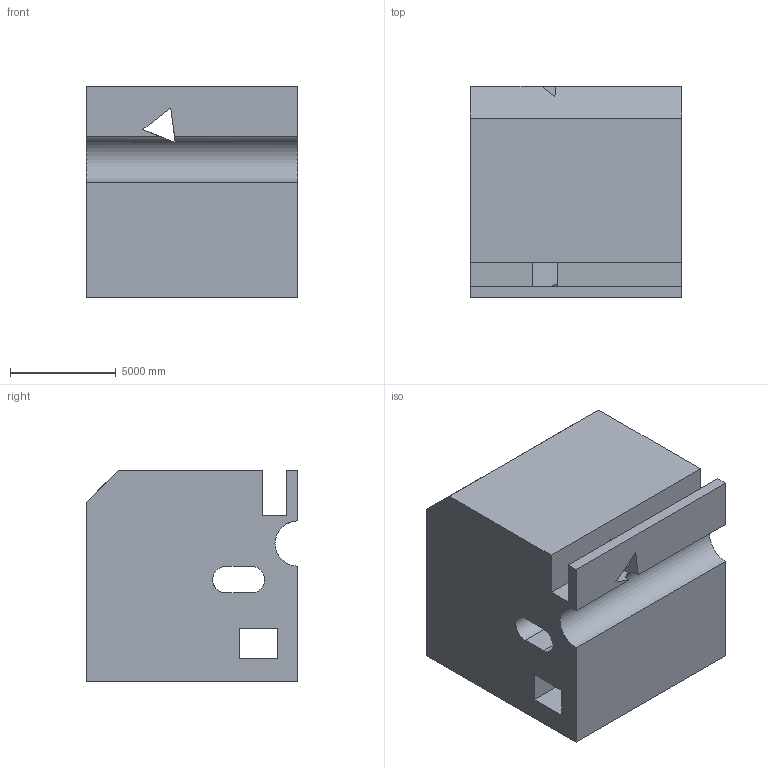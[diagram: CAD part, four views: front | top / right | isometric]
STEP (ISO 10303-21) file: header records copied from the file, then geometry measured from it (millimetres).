
FILE_DESCRIPTION (( 'STEP AP203' ), '1' );
FILE_NAME ('1737.STEP', '2022-08-19T12:14:24', ( 'user' ), ( '' ), 'SwSTEP 2.0', 'SolidWorks 2021', '' );
FILE_SCHEMA (( 'CONFIG_CONTROL_DESIGN' ));
Length unit declared in the file: centimetre
Products named in the file (1): 1737
Bounding box: 10000 x 10000 x 10000 mm (x, y, z)
Volume: 869432016204.6 mm3; surface area: 806976921.3 mm2
Topology: 1 solids, 1 shells, 36 faces, 114 edges, 76 vertices
Faces by surface type: plane 33, cylinder 3
Entity records: 1339 total; most frequent: CARTESIAN_POINT 233, ORIENTED_EDGE 228, DIRECTION 194, EDGE_CURVE 114, VECTOR 104, LINE 104, VERTEX_POINT 76, AXIS2_PLACEMENT_3D 45
